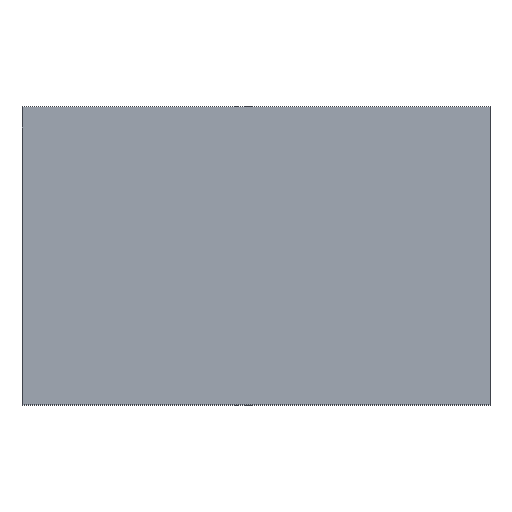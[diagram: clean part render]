
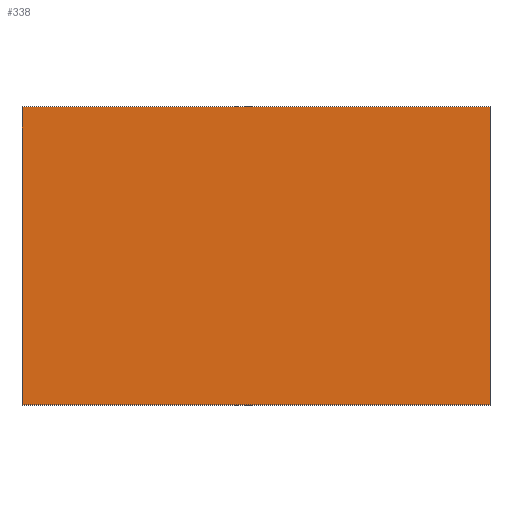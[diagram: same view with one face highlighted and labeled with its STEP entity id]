
A CAD part, top view. The second image highlights one B-rep face of the part: STEP entity #338.
In plain terms, the highlighted planar face has unit normal (0, 0, 1).
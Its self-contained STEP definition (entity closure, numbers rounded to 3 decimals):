
#24 = VERTEX_POINT('',#25);
#25 = CARTESIAN_POINT('',(-0.825,-0.525,0.6));
#32 = PLANE('',#33);
#33 = AXIS2_PLACEMENT_3D('',#34,#35,#36);
#34 = CARTESIAN_POINT('',(-0.825,-0.525,0.));
#35 = DIRECTION('',(1.,0.,0.));
#36 = DIRECTION('',(0.,0.,1.));
#44 = PLANE('',#45);
#45 = AXIS2_PLACEMENT_3D('',#46,#47,#48);
#46 = CARTESIAN_POINT('',(-0.825,-0.525,0.));
#47 = DIRECTION('',(0.,1.,0.));
#48 = DIRECTION('',(0.,0.,1.));
#85 = VERTEX_POINT('',#86);
#86 = CARTESIAN_POINT('',(-0.825,0.525,0.6));
#100 = PLANE('',#101);
#101 = AXIS2_PLACEMENT_3D('',#102,#103,#104);
#102 = CARTESIAN_POINT('',(-0.825,0.525,0.));
#103 = DIRECTION('',(0.,1.,0.));
#104 = DIRECTION('',(0.,0.,1.));
#112 = EDGE_CURVE('',#24,#85,#113,.T.);
#113 = SURFACE_CURVE('',#114,(#118,#125),.PCURVE_S1.);
#114 = LINE('',#115,#116);
#115 = CARTESIAN_POINT('',(-0.825,-0.525,0.6));
#116 = VECTOR('',#117,1.);
#117 = DIRECTION('',(0.,1.,0.));
#118 = PCURVE('',#32,#119);
#119 = DEFINITIONAL_REPRESENTATION('',(#120),#124);
#120 = LINE('',#121,#122);
#121 = CARTESIAN_POINT('',(0.6,0.));
#122 = VECTOR('',#123,1.);
#123 = DIRECTION('',(0.,-1.));
#124 = ( GEOMETRIC_REPRESENTATION_CONTEXT(2) 
PARAMETRIC_REPRESENTATION_CONTEXT() REPRESENTATION_CONTEXT('2D SPACE',''
  ) );
#125 = PCURVE('',#126,#131);
#126 = PLANE('',#127);
#127 = AXIS2_PLACEMENT_3D('',#128,#129,#130);
#128 = CARTESIAN_POINT('',(-0.825,-0.525,0.6));
#129 = DIRECTION('',(0.,0.,1.));
#130 = DIRECTION('',(1.,0.,0.));
#131 = DEFINITIONAL_REPRESENTATION('',(#132),#136);
#132 = LINE('',#133,#134);
#133 = CARTESIAN_POINT('',(0.,0.));
#134 = VECTOR('',#135,1.);
#135 = DIRECTION('',(0.,1.));
#136 = ( GEOMETRIC_REPRESENTATION_CONTEXT(2) 
PARAMETRIC_REPRESENTATION_CONTEXT() REPRESENTATION_CONTEXT('2D SPACE',''
  ) );
#144 = VERTEX_POINT('',#145);
#145 = CARTESIAN_POINT('',(0.825,-0.525,0.6));
#152 = PLANE('',#153);
#153 = AXIS2_PLACEMENT_3D('',#154,#155,#156);
#154 = CARTESIAN_POINT('',(0.825,-0.525,0.));
#155 = DIRECTION('',(1.,0.,0.));
#156 = DIRECTION('',(0.,0.,1.));
#195 = VERTEX_POINT('',#196);
#196 = CARTESIAN_POINT('',(0.825,0.525,0.6));
#217 = EDGE_CURVE('',#144,#195,#218,.T.);
#218 = SURFACE_CURVE('',#219,(#223,#230),.PCURVE_S1.);
#219 = LINE('',#220,#221);
#220 = CARTESIAN_POINT('',(0.825,-0.525,0.6));
#221 = VECTOR('',#222,1.);
#222 = DIRECTION('',(0.,1.,0.));
#223 = PCURVE('',#152,#224);
#224 = DEFINITIONAL_REPRESENTATION('',(#225),#229);
#225 = LINE('',#226,#227);
#226 = CARTESIAN_POINT('',(0.6,0.));
#227 = VECTOR('',#228,1.);
#228 = DIRECTION('',(0.,-1.));
#229 = ( GEOMETRIC_REPRESENTATION_CONTEXT(2) 
PARAMETRIC_REPRESENTATION_CONTEXT() REPRESENTATION_CONTEXT('2D SPACE',''
  ) );
#230 = PCURVE('',#126,#231);
#231 = DEFINITIONAL_REPRESENTATION('',(#232),#236);
#232 = LINE('',#233,#234);
#233 = CARTESIAN_POINT('',(1.65,0.));
#234 = VECTOR('',#235,1.);
#235 = DIRECTION('',(0.,1.));
#236 = ( GEOMETRIC_REPRESENTATION_CONTEXT(2) 
PARAMETRIC_REPRESENTATION_CONTEXT() REPRESENTATION_CONTEXT('2D SPACE',''
  ) );
#263 = EDGE_CURVE('',#24,#144,#264,.T.);
#264 = SURFACE_CURVE('',#265,(#269,#276),.PCURVE_S1.);
#265 = LINE('',#266,#267);
#266 = CARTESIAN_POINT('',(-0.825,-0.525,0.6));
#267 = VECTOR('',#268,1.);
#268 = DIRECTION('',(1.,0.,0.));
#269 = PCURVE('',#44,#270);
#270 = DEFINITIONAL_REPRESENTATION('',(#271),#275);
#271 = LINE('',#272,#273);
#272 = CARTESIAN_POINT('',(0.6,0.));
#273 = VECTOR('',#274,1.);
#274 = DIRECTION('',(0.,1.));
#275 = ( GEOMETRIC_REPRESENTATION_CONTEXT(2) 
PARAMETRIC_REPRESENTATION_CONTEXT() REPRESENTATION_CONTEXT('2D SPACE',''
  ) );
#276 = PCURVE('',#126,#277);
#277 = DEFINITIONAL_REPRESENTATION('',(#278),#282);
#278 = LINE('',#279,#280);
#279 = CARTESIAN_POINT('',(0.,0.));
#280 = VECTOR('',#281,1.);
#281 = DIRECTION('',(1.,0.));
#282 = ( GEOMETRIC_REPRESENTATION_CONTEXT(2) 
PARAMETRIC_REPRESENTATION_CONTEXT() REPRESENTATION_CONTEXT('2D SPACE',''
  ) );
#310 = EDGE_CURVE('',#85,#195,#311,.T.);
#311 = SURFACE_CURVE('',#312,(#316,#323),.PCURVE_S1.);
#312 = LINE('',#313,#314);
#313 = CARTESIAN_POINT('',(-0.825,0.525,0.6));
#314 = VECTOR('',#315,1.);
#315 = DIRECTION('',(1.,0.,0.));
#316 = PCURVE('',#100,#317);
#317 = DEFINITIONAL_REPRESENTATION('',(#318),#322);
#318 = LINE('',#319,#320);
#319 = CARTESIAN_POINT('',(0.6,0.));
#320 = VECTOR('',#321,1.);
#321 = DIRECTION('',(0.,1.));
#322 = ( GEOMETRIC_REPRESENTATION_CONTEXT(2) 
PARAMETRIC_REPRESENTATION_CONTEXT() REPRESENTATION_CONTEXT('2D SPACE',''
  ) );
#323 = PCURVE('',#126,#324);
#324 = DEFINITIONAL_REPRESENTATION('',(#325),#329);
#325 = LINE('',#326,#327);
#326 = CARTESIAN_POINT('',(0.,1.05));
#327 = VECTOR('',#328,1.);
#328 = DIRECTION('',(1.,0.));
#329 = ( GEOMETRIC_REPRESENTATION_CONTEXT(2) 
PARAMETRIC_REPRESENTATION_CONTEXT() REPRESENTATION_CONTEXT('2D SPACE',''
  ) );
#338 = ADVANCED_FACE('',(#339),#126,.T.);
#339 = FACE_BOUND('',#340,.T.);
#340 = EDGE_LOOP('',(#341,#342,#343,#344));
#341 = ORIENTED_EDGE('',*,*,#112,.F.);
#342 = ORIENTED_EDGE('',*,*,#263,.T.);
#343 = ORIENTED_EDGE('',*,*,#217,.T.);
#344 = ORIENTED_EDGE('',*,*,#310,.F.);
